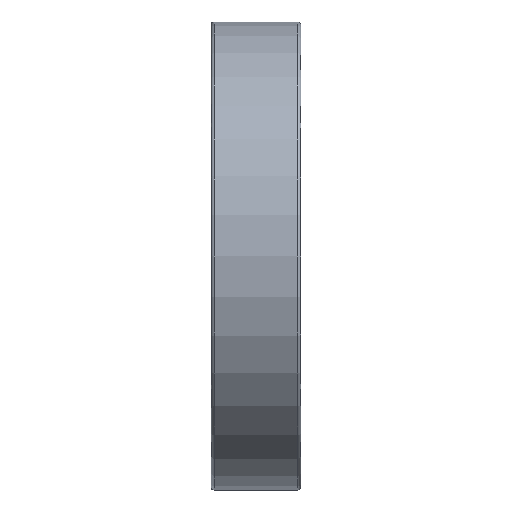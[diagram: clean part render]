
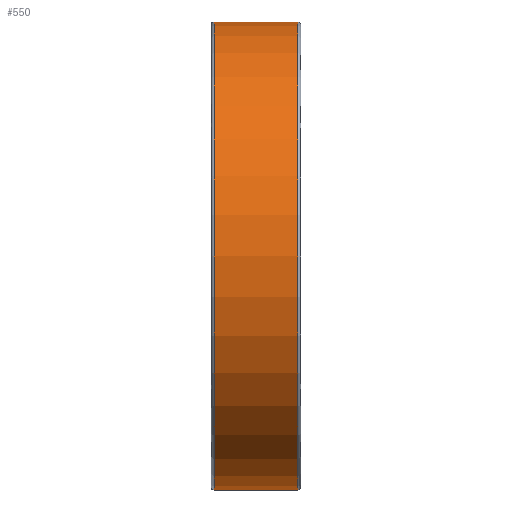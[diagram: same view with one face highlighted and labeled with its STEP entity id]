
A CAD part, front view. The second image highlights one B-rep face of the part: STEP entity #550.
In plain terms, the highlighted cylindrical face has radius 23.5 mm (diameter 47 mm), a full revolution.
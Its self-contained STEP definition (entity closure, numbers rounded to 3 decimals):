
#167=CYLINDRICAL_SURFACE('',#862,23.5);
#267=EDGE_LOOP('',(#379));
#268=EDGE_LOOP('',(#380));
#379=ORIENTED_EDGE('',*,*,#443,.F.);
#380=ORIENTED_EDGE('',*,*,#441,.T.);
#441=EDGE_CURVE('',#789,#789,#461,.T.);
#443=EDGE_CURVE('',#791,#791,#463,.T.);
#461=CIRCLE('',#858,23.5);
#463=CIRCLE('',#861,23.5);
#550=ADVANCED_FACE('',(#691,#692),#167,.T.);
#691=FACE_BOUND('',#267,.T.);
#692=FACE_BOUND('',#268,.T.);
#789=VERTEX_POINT('',#3234);
#791=VERTEX_POINT('',#3239);
#858=AXIS2_PLACEMENT_3D('',#3233,#986,#987);
#861=AXIS2_PLACEMENT_3D('',#3238,#992,#993);
#862=AXIS2_PLACEMENT_3D('',#3240,#994,#995);
#986=DIRECTION('',(1.,0.,0.));
#987=DIRECTION('',(0.,0.,-1.));
#992=DIRECTION('',(1.,0.,0.));
#993=DIRECTION('',(0.,0.,-1.));
#994=DIRECTION('',(1.,0.,0.));
#995=DIRECTION('',(0.,0.,-1.));
#3233=CARTESIAN_POINT('',(-4.2,0.,0.));
#3234=CARTESIAN_POINT('',(-4.2,0.,-23.5));
#3238=CARTESIAN_POINT('',(4.2,0.,0.));
#3239=CARTESIAN_POINT('',(4.2,0.,-23.5));
#3240=CARTESIAN_POINT('',(-4.2,0.,0.));
